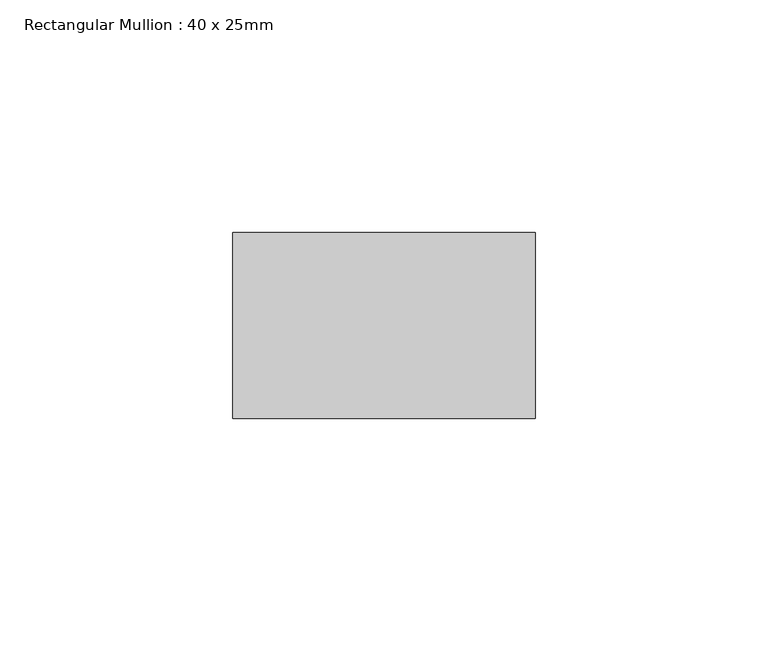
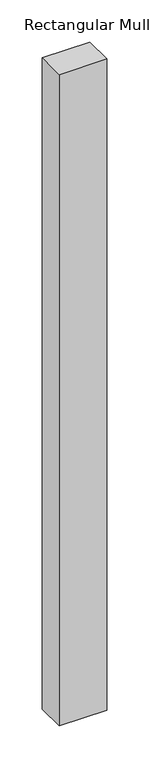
"""IFC4 building model written with IfcOpenShell, lengths in millimetres: member geometry, Rectangular Mullion : 40 x 25mm."""

from ifc_helpers import new_model, si_unit, frame, origin, place, context, project, spatial, polyline, outline, extrude, source, transform, mapped, element, save


def rectangular_mullion_40_x_25mm_61d1bf9e(model_context):
    return source(origin(), model_context, "Body", "SweptSolid", [
        extrude(outline(polyline([(0.0, -20.0), (0.0, -60.0), (-65.0, -60.0), (-65.0, -20.0), (0.0, -20.0)])), frame((0.0, 0.0, -941.6666667), z_axis=(0.0, 0.0, 1.0), x_axis=(1.0, 0.0, 0.0)), (0.0, 0.0, 1.0), 941.6666667),
    ])


if __name__ == "__main__":
    model = new_model("IFC4")
    model_context = context("Model", 3, world=origin())
    ifc_project = project(units=[si_unit("LENGTHUNIT", "METRE", prefix="MILLI")], contexts=[model_context])
    site = spatial("IfcSite", under=ifc_project)
    building = spatial("IfcBuilding", under=site)
    placement = place(None, origin())
    rectangular_mullion_40_x_25mm_shape = rectangular_mullion_40_x_25mm_61d1bf9e(model_context)
    element("IfcMember", 1, ObjectType="Rectangular Mullion : 40 x 25mm", at=placement, inside=building, context=model_context, shape_type="MappedRepresentation", body=[
        mapped(rectangular_mullion_40_x_25mm_shape, transform((0.0, 0.0, 0.0), x_axis=(1.0, 0.0, 0.0), y_axis=(0.0, 1.0, 0.0), z_axis=(0.0, 0.0, 1.0))),
    ])
    save(model, "model.ifc")
